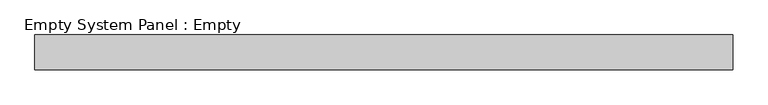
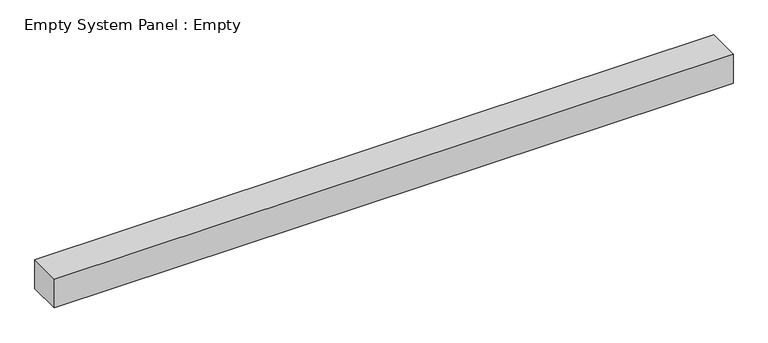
"""IFC4 building model written with IfcOpenShell, lengths in millimetres: plate geometry, Empty System Panel : Empty."""

from ifc_helpers import new_model, si_unit, origin, origin_with_axes, place, context, project, spatial, polyline, outline, extrude, source, transform, mapped, element, save


def empty_system_panel_empty_51cbbd14(model_context):
    return source(origin(), model_context, "Body", "SweptSolid", [
        extrude(outline(polyline([(1000.0, -50.0), (-1000.0, -50.0), (-1000.0, 50.0), (1000.0, 50.0), (1000.0, -50.0)])), origin_with_axes(), (0.0, 0.0, 1.0), 90.0),
    ])


if __name__ == "__main__":
    model = new_model("IFC4")
    model_context = context("Model", 3, world=origin())
    ifc_project = project(units=[si_unit("LENGTHUNIT", "METRE", prefix="MILLI")], contexts=[model_context])
    site = spatial("IfcSite", under=ifc_project)
    building = spatial("IfcBuilding", under=site)
    placement = place(None, origin())
    empty_system_panel_empty_shape = empty_system_panel_empty_51cbbd14(model_context)
    element("IfcPlate", 1, ObjectType="Empty System Panel : Empty", at=placement, inside=building, context=model_context, shape_type="MappedRepresentation", body=[
        mapped(empty_system_panel_empty_shape, transform((0.0, 0.0, 0.0), x_axis=(1.0, 0.0, 0.0), y_axis=(0.0, 1.0, 0.0), z_axis=(0.0, 0.0, 1.0))),
    ])
    save(model, "model.ifc")
